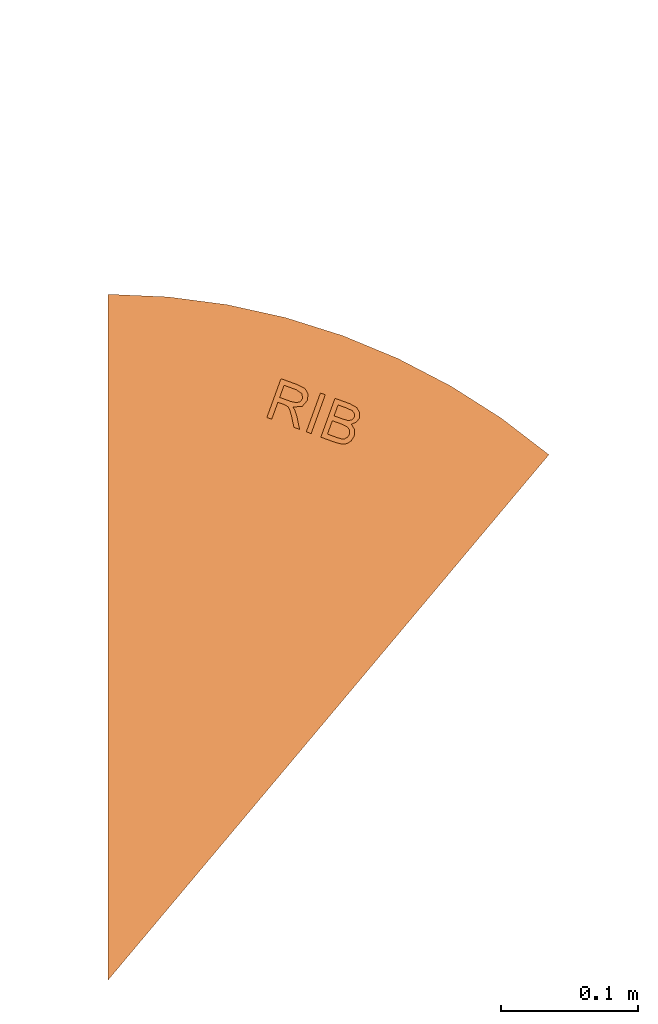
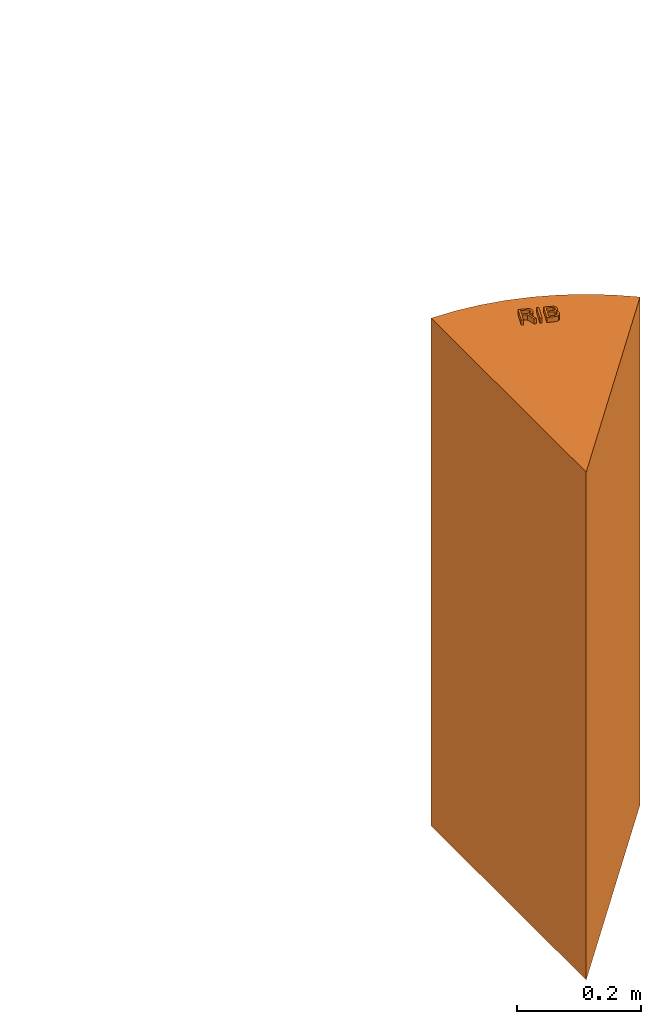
# One storey, part 4 of 4: 1 proxy.
"""IFC2X3 building model written with IfcOpenShell, lengths in millimetres."""

from ifc_helpers import new_model, entity, si_unit, converted_unit, direction, frame, frame_2d, origin, place, context, subcontext, project, spatial, polyline, circle_curve, parameter, trimmed, segment, composite_curve, rectangle, outline, extrude, source, transform, mapped, material, type_object, type_shapes, element, save


model = new_model("IFC2X3")

# Units and contexts
model_context = context("Model", 3, precision=0.01, world=origin(), true_north=direction((6.123233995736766e-17, 1.0)))
body_context = subcontext(model_context, "Body", "Model", "MODEL_VIEW")
ifc_project = project(units=[si_unit("LENGTHUNIT", "METRE", prefix="MILLI"), si_unit("AREAUNIT", "SQUARE_METRE"), si_unit("VOLUMEUNIT", "CUBIC_METRE"), converted_unit("PLANEANGLEUNIT", "DEGREE", entity("IfcPlaneAngleMeasure", 0.017453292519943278), si_unit("PLANEANGLEUNIT", "RADIAN"), dimensions=[0, 0, 0, 0, 0, 0, 0])], contexts=[model_context])

# Site, building, storey
site_placement = place(None, origin())
site = spatial("IfcSite", under=ifc_project, at=site_placement, Name="SiteName", CompositionType="ELEMENT")
building_placement = place(site_placement, origin())
building = spatial("IfcBuilding", under=site, at=building_placement, Name="Building Name", CompositionType="ELEMENT")
storey_placement = place(building_placement, origin())
storey = spatial("IfcBuildingStorey", under=building, at=storey_placement, Name="NN 2000", CompositionType="ELEMENT", Elevation=3.401508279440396e-10)

# Proxy
ifc_material = material(Name="Sweco grey - base colour")
building_element_proxy_type = type_object("IfcBuildingElementProxyType", Name="SW Nullpunktsobjekt 9 Fag:SW Nullpunktsobjekt 9 Fag", PredefinedType="NOTDEFINED", material=ifc_material)
shared_shape = source(origin(), body_context, "Body", "SweptSolid", [
    extrude(outline(composite_curve([segment(polyline([(-205.6592594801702, -107.13126828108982), (294.34074051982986, -107.1312682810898)]), True, "CONTINUOUS"), segment(polyline([(294.34074051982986, -107.13126828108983), (-88.68148103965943, 214.2625365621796)]), True, "CONTINUOUS"), segment(trimmed(circle_curve(frame_2d((294.34074051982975, -107.13126828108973), x_axis=(0.3420201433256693, 0.9396926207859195)), 500.00000000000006), [parameter(70.00000000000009)], [parameter(110.00000000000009)], True, "PARAMETER"), True, "CONTINUOUS")], self_intersect=False)), frame((107.13126828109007, 294.3407405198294, 0.0), z_axis=(0.0, 0.0, 1.0), x_axis=(0.0, -1.0, 0.0)), (0.0, 0.0, 1.0), 1000.0000000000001),
    extrude(outline(polyline([(-14.145256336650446, -13.507658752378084), (-10.378144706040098, -13.507658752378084), (-10.378144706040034, -0.3227680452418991), (-5.831123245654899, -0.3227680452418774), (-3.645904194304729, -0.4552055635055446), (-1.8543188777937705, -1.1725754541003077), (0.13592271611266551, -3.126028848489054), (2.9686140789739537, -7.261022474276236), (6.890236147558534, -13.507658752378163), (11.268031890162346, -13.507658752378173), (6.242763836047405, -5.340678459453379), (3.1893432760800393, -1.4632022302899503), (1.0482700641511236, 0.14812090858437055), (7.357446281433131, 2.951381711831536), (9.399191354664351, 8.381319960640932), (8.166786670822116, 12.939377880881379), (4.870563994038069, 15.816215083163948), (-1.1590219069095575, 16.629234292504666), (-14.14525633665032, 16.62923429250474), (-14.145256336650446, -13.507658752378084)]), holes=[polyline([(-10.378144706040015, 3.4443435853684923), (-10.378144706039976, 12.862122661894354), (-0.9971538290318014, 12.862122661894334), (4.039150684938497, 11.559820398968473), (5.632079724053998, 8.241524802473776), (4.796987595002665, 5.684744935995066), (2.354251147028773, 3.9777724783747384), (-1.9462893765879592, 3.4443435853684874), (-10.378144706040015, 3.4443435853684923)])]), frame((133.62375666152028, 418.0150334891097, 1000.0), z_axis=(0.0, 0.0, 1.0), x_axis=(0.9396926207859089, -0.34202014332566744, 0.0)), (0.0, 0.0, 1.0), 10.000000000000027),
    extrude(rectangle(XDim=3.767111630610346, YDim=30.136893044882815, at=frame_2d((3.774758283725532e-15, -3.552713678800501e-14), x_axis=(1.0, 0.0))), frame((151.39725490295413, 413.2069648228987, 1000.0), z_axis=(0.0, 0.0, 1.0), x_axis=(0.9396926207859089, -0.34202014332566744, 0.0)), (0.0, 0.0, 1.0), 10.000000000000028),
    extrude(outline(polyline([(-15.842049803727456, -14.60728016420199), (-4.430350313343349, -14.607280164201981), (0.3999402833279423, -14.088566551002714), (3.6777688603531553, -12.558177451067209), (5.874024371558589, -9.673982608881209), (6.760619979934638, -5.623601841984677), (5.461996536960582, -0.9367852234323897), (1.750067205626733, 1.873833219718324), (4.807166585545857, 4.5409776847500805), (5.818842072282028, 8.061608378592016), (4.615867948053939, 11.91701168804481), (1.2902147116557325, 14.643017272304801), (-4.342058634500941, 15.529612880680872), (-15.84204980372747, 15.52961288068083), (-15.842049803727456, -14.60728016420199)]), holes=[polyline([(-12.074938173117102, 3.2865000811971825), (-12.074938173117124, 11.762501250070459), (-5.717937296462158, 11.762501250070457), (-0.8766102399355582, 11.368867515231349), (1.2938935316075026, 9.915733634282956), (2.05173044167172, 7.45828190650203), (1.238711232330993, 5.004508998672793), (-1.178273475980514, 3.610236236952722), (-5.1955448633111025, 3.286500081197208), (-12.074938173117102, 3.2865000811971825)]), polyline([(-12.074938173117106, -10.84016853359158), (-12.07493817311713, -0.48061154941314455), (-4.717298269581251, -0.480611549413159), (-0.06359103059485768, -0.984609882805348), (2.2724596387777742, -2.7320493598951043), (2.9935083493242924, -5.660390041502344), (2.379145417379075, -8.198775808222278), (0.8119681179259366, -9.872638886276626), (-1.5535131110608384, -10.693015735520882), (-4.349416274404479, -10.840168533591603), (-12.074938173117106, -10.84016853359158)])]), frame((174.97600152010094, 404.1342399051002, 1000.0), z_axis=(0.0, 0.0, 1.0), x_axis=(0.9396926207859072, -0.3420201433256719, 0.0)), (0.0, 0.0, 1.0), 10.000000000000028),
])
type_shapes(building_element_proxy_type, [shared_shape])
proxy_placement = place(storey_placement, frame((0.0, 0.0, -730.0)))
element("IfcBuildingElementProxy", 1, at=proxy_placement, inside=storey, type_object=building_element_proxy_type, material=ifc_material, Name="SW Nullpunktsobjekt 9 Fag:SW Nullpunktsobjekt 9 Fag", ObjectType="SW Nullpunktsobjekt 9 Fag:SW Nullpunktsobjekt 9 Fag", context=body_context, shape_type="MappedRepresentation", body=[
    mapped(shared_shape, transform((0.0, 0.0, 0.0), scale=1.0)),
])

save(model, "model.ifc")
